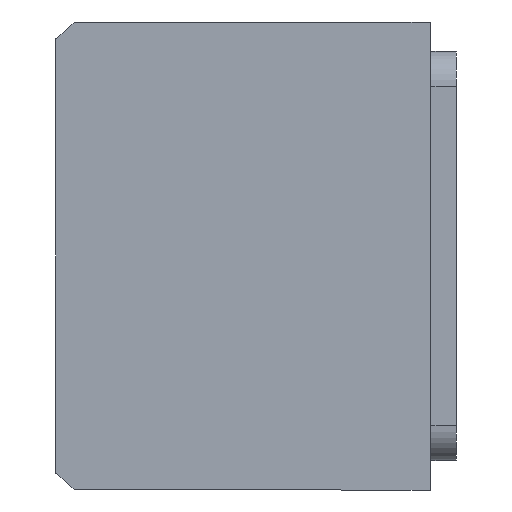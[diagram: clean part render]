
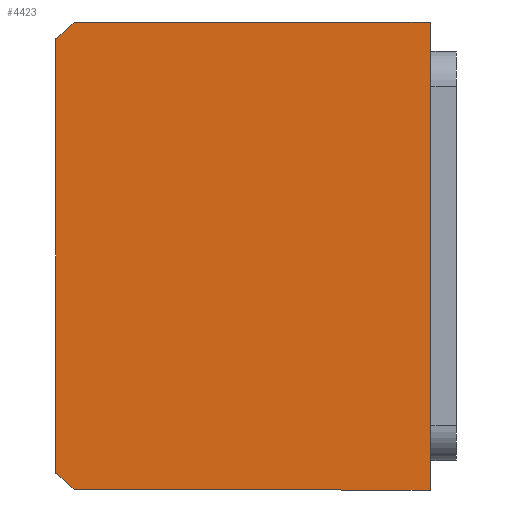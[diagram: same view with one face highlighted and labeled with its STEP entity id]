
A CAD part, front view. The second image highlights one B-rep face of the part: STEP entity #4423.
In plain terms, the highlighted planar face has unit normal (0, -1, 0) as drawn and (0, 0, -1) by its records, which use the part's own axes.
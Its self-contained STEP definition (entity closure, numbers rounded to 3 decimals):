
#26 = DIRECTION ( 'NONE',  ( 0., 0., 1. ) ) ;
#133 = EDGE_LOOP ( 'NONE', ( #8330, #6005, #3919, #9935, #1814, #7850 ) ) ;
#177 = DIRECTION ( 'NONE',  ( 0., -1., 0. ) ) ;
#340 = CARTESIAN_POINT ( 'NONE',  ( 37.094, -75.507, 0. ) ) ;
#444 = EDGE_CURVE ( 'NONE', #9429, #3916, #3529, .T. ) ;
#495 = VERTEX_POINT ( 'NONE', #9574 ) ;
#679 = VECTOR ( 'NONE', #9471, 1000. ) ;
#1025 = DIRECTION ( 'NONE',  ( 0., 0., 1. ) ) ;
#1340 = CARTESIAN_POINT ( 'NONE',  ( -40., -72.145, 0. ) ) ;
#1814 = ORIENTED_EDGE ( 'NONE', *, *, #8905, .F. ) ;
#1856 = AXIS2_PLACEMENT_3D ( 'NONE', #3914, #4573, #4645 ) ;
#2881 = EDGE_CURVE ( 'NONE', #495, #7518, #4492, .T. ) ;
#2890 = CARTESIAN_POINT ( 'NONE',  ( -40., -11.507, 0. ) ) ;
#3529 = CIRCLE ( 'NONE', #1856, 51. ) ;
#3863 = DIRECTION ( 'NONE',  ( 0., 1., 0. ) ) ;
#3914 = CARTESIAN_POINT ( 'NONE',  ( 0., -40.507, 0. ) ) ;
#3916 = VERTEX_POINT ( 'NONE', #9098 ) ;
#3919 = ORIENTED_EDGE ( 'NONE', *, *, #2881, .F. ) ;
#3931 = CARTESIAN_POINT ( 'NONE',  ( 40., -11.507, 0. ) ) ;
#3988 = CIRCLE ( 'NONE', #7690, 51. ) ;
#4054 = CARTESIAN_POINT ( 'NONE',  ( -40., -11.507, 0. ) ) ;
#4423 = ADVANCED_FACE ( 'NONE', ( #5104 ), #6317, .F. ) ;
#4453 = EDGE_CURVE ( 'NONE', #3916, #4701, #4868, .T. ) ;
#4492 = LINE ( 'NONE', #5125, #8419 ) ;
#4573 = DIRECTION ( 'NONE',  ( 0., 0., 1. ) ) ;
#4642 = CARTESIAN_POINT ( 'NONE',  ( 40., -72.145, 0. ) ) ;
#4645 = DIRECTION ( 'NONE',  ( 1., 0., 0. ) ) ;
#4701 = VERTEX_POINT ( 'NONE', #340 ) ;
#4760 = CARTESIAN_POINT ( 'NONE',  ( -40., -75.507, 0. ) ) ;
#4868 = LINE ( 'NONE', #4760, #679 ) ;
#4875 = LINE ( 'NONE', #3931, #7204 ) ;
#4887 = VECTOR ( 'NONE', #177, 1000. ) ;
#5061 = DIRECTION ( 'NONE',  ( -1., 0., 0. ) ) ;
#5104 = FACE_OUTER_BOUND ( 'NONE', #133, .T. ) ;
#5125 = CARTESIAN_POINT ( 'NONE',  ( -40., -11.507, 0. ) ) ;
#5501 = VERTEX_POINT ( 'NONE', #4642 ) ;
#5732 = CARTESIAN_POINT ( 'NONE',  ( 0., -40.507, 0. ) ) ;
#6005 = ORIENTED_EDGE ( 'NONE', *, *, #7277, .F. ) ;
#6317 = PLANE ( 'NONE',  #6661 ) ;
#6540 = DIRECTION ( 'NONE',  ( 1., 0., 0. ) ) ;
#6661 = AXIS2_PLACEMENT_3D ( 'NONE', #7098, #26, #7870 ) ;
#7098 = CARTESIAN_POINT ( 'NONE',  ( 0., 0., 0. ) ) ;
#7204 = VECTOR ( 'NONE', #3863, 1000. ) ;
#7277 = EDGE_CURVE ( 'NONE', #7518, #9429, #9036, .T. ) ;
#7518 = VERTEX_POINT ( 'NONE', #2890 ) ;
#7690 = AXIS2_PLACEMENT_3D ( 'NONE', #5732, #1025, #6540 ) ;
#7850 = ORIENTED_EDGE ( 'NONE', *, *, #4453, .F. ) ;
#7870 = DIRECTION ( 'NONE',  ( 1., 0., 0. ) ) ;
#8039 = EDGE_CURVE ( 'NONE', #5501, #495, #4875, .T. ) ;
#8330 = ORIENTED_EDGE ( 'NONE', *, *, #444, .F. ) ;
#8419 = VECTOR ( 'NONE', #5061, 1000. ) ;
#8905 = EDGE_CURVE ( 'NONE', #4701, #5501, #3988, .T. ) ;
#9036 = LINE ( 'NONE', #4054, #4887 ) ;
#9098 = CARTESIAN_POINT ( 'NONE',  ( -37.094, -75.507, 0. ) ) ;
#9429 = VERTEX_POINT ( 'NONE', #1340 ) ;
#9471 = DIRECTION ( 'NONE',  ( 1., 0., 0. ) ) ;
#9574 = CARTESIAN_POINT ( 'NONE',  ( 40., -11.507, 0. ) ) ;
#9935 = ORIENTED_EDGE ( 'NONE', *, *, #8039, .F. ) ;
